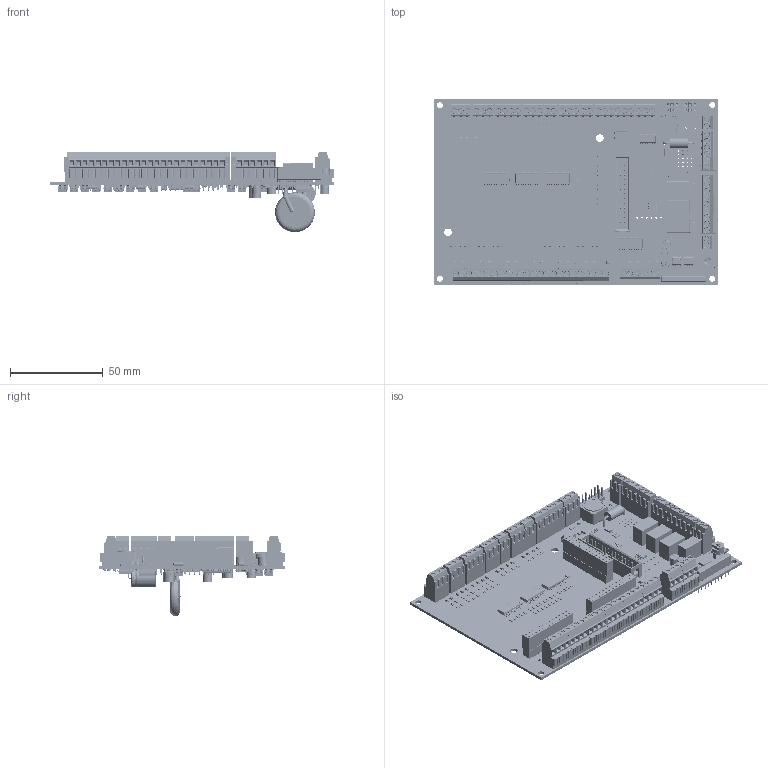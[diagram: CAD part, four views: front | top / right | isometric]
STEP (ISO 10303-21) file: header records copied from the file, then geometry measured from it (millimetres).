
FILE_DESCRIPTION(('KiCad electronic assembly'),'2;1');
FILE_NAME('C25XPrev5-1.step','2024-04-25T08:31:18',('Pcbnew'),('Kicad'), 'Open CASCADE STEP processor 7.6','KiCad to STEP converter','Unknown' );
FILE_SCHEMA(('AUTOMOTIVE_DESIGN { 1 0 10303 214 1 1 1 1 }'));
Length unit declared in the file: millimetre
Products named in the file (74): C25XPrev5-1 1; Cap electrolitic radial 5x7; COMPOUND; R SMD 0805; SOD-128; NS-PDSO-20; LED0805_red; SOLID; DG381H-3.5-04P-14-00AH; C0805; DG381H-3.5-03P-14-00AH; SIP3; 1206; SO4-1; Cap electrolitic radial 5x5; Trimmer, 3306F-1; SO14N; SO8; DG381H-3.5-02P-14-00AH; LED0805_green; SIL-K4; WE-PD SERIES; ESQ-113-23-T-D; PIC 12F508; STA471A; User Library-TR5V L-S-Z; DO-201AD; IDC Socket Male 26pin 2_54mm; Cap electrolitic radial 6x7; User Library-SO-5; Cap electrolitic radial 10x13; Cap electrolitic radial 10x13_V; SO16; SO-20W; 2-Varistor_20mm; MicroMelf; C25XPrev5 PCB
Assembly tree (350 placements, depth 3):
  C25XPrev5-1 1
    Cap electrolitic radial 5x7  x2
      COMPOUND
    R SMD 0805  x146
      COMPOUND
    SOD-128
      COMPOUND
    NS-PDSO-20  x7
      COMPOUND
    LED0805_red  x38
      SOLID
    DG381H-3.5-04P-14-00AH  x7
      SOLID
    C0805  x31
      SOLID
      SOLID
      SOLID
      SOLID
      SOLID
      SOLID
    DG381H-3.5-03P-14-00AH  x12
      SOLID
    SIP3  x4
      SOLID
    1206  x3
      COMPOUND
    SO4-1  x18
      COMPOUND
    Cap electrolitic radial 5x5  x5
      COMPOUND
    Trimmer, 3306F-1
      COMPOUND
    SO14N  x2
      COMPOUND
    SO8  x2
      COMPOUND
    DG381H-3.5-02P-14-00AH  x7
      SOLID
    LED0805_green
      SOLID
    SIL-K4
      COMPOUND
    WE-PD SERIES
      SOLID
    ESQ-113-23-T-D  x3
      COMPOUND
    PIC 12F508
      SOLID
    STA471A
      SOLID
    User Library-TR5V L-S-Z  x3
      SOLID
    DO-201AD
      COMPOUND
    IDC Socket Male 26pin 2_54mm
      COMPOUND
    Cap electrolitic radial 6x7
      COMPOUND
    User Library-SO-5  x4
      COMPOUND
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Bounding box: 153.16 x 100.08 x 43.39 mm (x, y, z)
Volume: 73754.2 mm3; surface area: 92523.9 mm2
Topology: 1227 solids, 1240 shells, 46091 faces, 117742 edges, 75816 vertices
Faces by surface type: plane 27647, bspline 11057, cylinder 5712, sphere 988, torus 681, cone 6
Full cylindrical faces by diameter (mm): 0.6 x2, 0.711 x20, 0.8 x18, 0.813 x26, 0.914 x26, 1.016 x105, 1.1 x78, 1.194 x2, 1.499 x2, 3.2 x4, 4.1 x2
Entity records: 570128 total; most frequent: CARTESIAN_POINT 181270, DIRECTION 64325, LINE 44552, VECTOR 44552, ORIENTED_EDGE 37158, PCURVE 37158, DEFINITIONAL_REPRESENTATION 37158, EDGE_CURVE 18613
